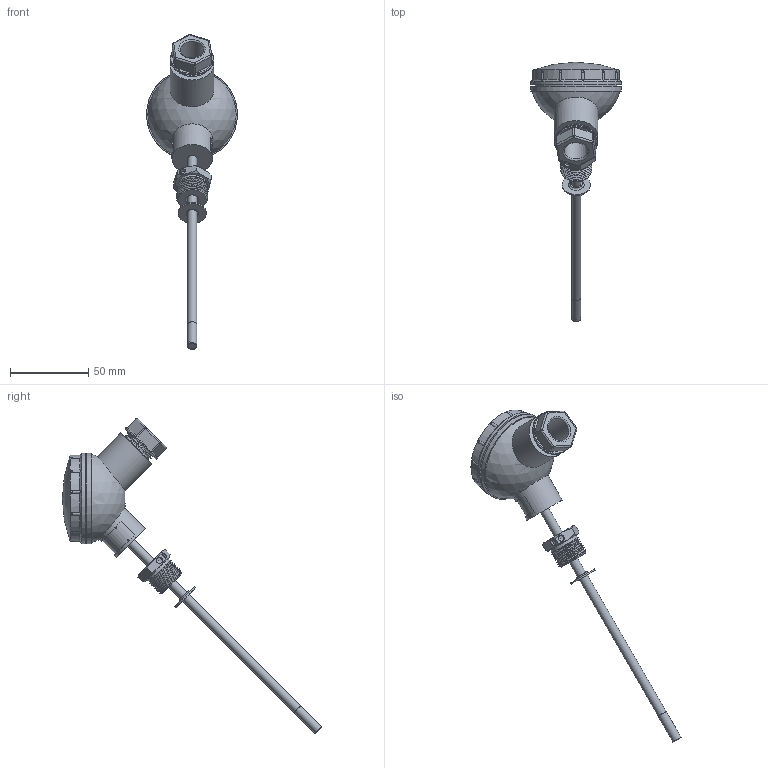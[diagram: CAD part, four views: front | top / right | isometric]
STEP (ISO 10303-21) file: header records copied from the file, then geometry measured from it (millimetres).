
FILE_DESCRIPTION(('STEP AP242'), '1');
FILE_NAME('栖闉罻 3.1.02.02', '', ('UNSPECIFIED'), ('UNSPECIFIED'), 'ASCON STEP Converter 1.6', 'ASCON Math Kernel', '');
FILE_SCHEMA(('AP242_MANAGED_MODEL_BASED_3D_ENGINEERING_MIM_LF { 1 0 10303 442 1 1 4 }'));
Length unit declared in the file: millimetre
Products named in the file (13): Сборка405111-001угл; Шайба 758480-006; Шайба 4; Прокладка 754100-000; Винт 715341-000; Гайка М4; Заглушка 754100-001; Крышка 735214-000; Кожух 731196-000-00; Шайба 758480-001-01; Трубка 723110-004; Гайка 758480-000
Assembly tree (21 placements, depth 3):
  Сборка405111-001угл
    Шайба 758480-006  x4
    Шайба 4  x4
    Прокладка 754100-000
    Винт 715341-000
    Гайка М4  x4
    Заглушка 754100-001
    Крышка 735214-000
    Кожух 731196-000-00
    (unnamed)
      Шайба 758480-001-01
      Трубка 723110-004
      Гайка 758480-000
Bounding box: 58 x 165.36 x 200.86 mm (x, y, z)
Volume: 69631.6 mm3; surface area: 44443.7 mm2
Topology: 23 solids, 23 shells, 561 faces, 1421 edges, 901 vertices
Faces by surface type: cylinder 238, plane 189, bspline 56, cone 54, torus 16, sphere 8
Full cylindrical faces by diameter (mm): 1.6 x1, 4 x7, 4.2 x4, 5 x2, 6 x5, 6.5 x1, 9 x4, 12 x2, 15 x1, 15.4 x1, 18 x1, 18.94 x1, 19.2 x1, 20 x1, 26 x1, 28 x2, 44 x1, 47 x2, 48 x1, 52 x1, 53 x1, 54 x1, 55 x1, 58 x2
Entity records: 90200 total; most frequent: CARTESIAN_POINT 75956, ORIENTED_EDGE 2154, DIRECTION 1670, EDGE_CURVE 1077, VERTEX_POINT 731, AXIS2_PLACEMENT_3D 677, EDGE_LOOP 560, B_SPLINE_CURVE_WITH_KNOTS 484
